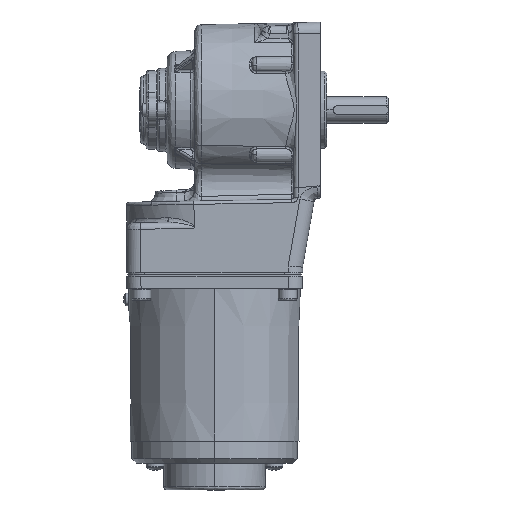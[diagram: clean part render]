
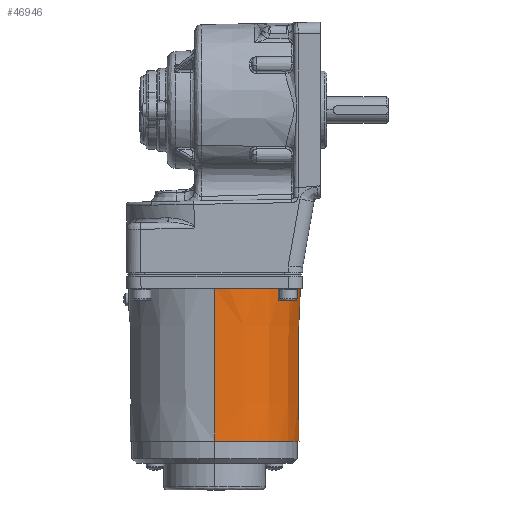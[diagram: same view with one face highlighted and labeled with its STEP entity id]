
A CAD part, front view. The second image highlights one B-rep face of the part: STEP entity #46946.
In plain terms, the highlighted conical face has half-angle 0.5 degrees and reference radius 39 mm.
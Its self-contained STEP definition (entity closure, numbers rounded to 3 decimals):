
#1522 = DIRECTION ( 'NONE',  ( 0., -1., -0.009 ) ) ;
#1579 = DIRECTION ( 'NONE',  ( 0., -1., 0.009 ) ) ;
#1963 = EDGE_CURVE ( 'NONE', #39040, #61683, #29865, .T. ) ;
#2939 = CARTESIAN_POINT ( 'NONE',  ( 0., 0., 39. ) ) ;
#3032 = CIRCLE ( 'NONE', #30012, 38.393 ) ;
#6499 = EDGE_LOOP ( 'NONE', ( #70968, #22060, #14648, #78526 ) ) ;
#10653 = CARTESIAN_POINT ( 'NONE',  ( 0., 0., -39. ) ) ;
#14648 = ORIENTED_EDGE ( 'NONE', *, *, #71739, .T. ) ;
#15449 = VERTEX_POINT ( 'NONE', #15988 ) ;
#15988 = CARTESIAN_POINT ( 'NONE',  ( 0., 0., 39. ) ) ;
#16073 = CARTESIAN_POINT ( 'NONE',  ( 0., 69.5, 0. ) ) ;
#17263 = AXIS2_PLACEMENT_3D ( 'NONE', #40560, #71375, #46857 ) ;
#18567 = FACE_OUTER_BOUND ( 'NONE', #6499, .T. ) ;
#22060 = ORIENTED_EDGE ( 'NONE', *, *, #60659, .T. ) ;
#22400 = DIRECTION ( 'NONE',  ( 0., 0., -1. ) ) ;
#24518 = CONICAL_SURFACE ( 'NONE', #17263, 39., 0.009 ) ;
#26874 = VECTOR ( 'NONE', #1522, 1000. ) ;
#27565 = CARTESIAN_POINT ( 'NONE',  ( 0., 0., 0. ) ) ;
#29865 = LINE ( 'NONE', #48862, #26874 ) ;
#30012 = AXIS2_PLACEMENT_3D ( 'NONE', #16073, #59838, #22400 ) ;
#33834 = DIRECTION ( 'NONE',  ( 0., 0., -1. ) ) ;
#35449 = CARTESIAN_POINT ( 'NONE',  ( 0., 69.5, 38.393 ) ) ;
#36298 = AXIS2_PLACEMENT_3D ( 'NONE', #27565, #71234, #33834 ) ;
#37866 = VECTOR ( 'NONE', #1579, 1000. ) ;
#38450 = CARTESIAN_POINT ( 'NONE',  ( 0., 69.5, -38.393 ) ) ;
#39040 = VERTEX_POINT ( 'NONE', #38450 ) ;
#39460 = LINE ( 'NONE', #2939, #37866 ) ;
#40560 = CARTESIAN_POINT ( 'NONE',  ( 0., 0., 0. ) ) ;
#46857 = DIRECTION ( 'NONE',  ( 0., 0., -1. ) ) ;
#46946 = ADVANCED_FACE ( 'NONE', ( #18567 ), #24518, .T. ) ;
#48862 = CARTESIAN_POINT ( 'NONE',  ( 0., 0., -39. ) ) ;
#59838 = DIRECTION ( 'NONE',  ( 0., -1., 0. ) ) ;
#60659 = EDGE_CURVE ( 'NONE', #76738, #15449, #39460, .T. ) ;
#61683 = VERTEX_POINT ( 'NONE', #10653 ) ;
#70968 = ORIENTED_EDGE ( 'NONE', *, *, #74388, .T. ) ;
#71234 = DIRECTION ( 'NONE',  ( 0., 1., 0. ) ) ;
#71375 = DIRECTION ( 'NONE',  ( 0., -1., 0. ) ) ;
#71739 = EDGE_CURVE ( 'NONE', #15449, #61683, #72852, .T. ) ;
#72852 = CIRCLE ( 'NONE', #36298, 39. ) ;
#74388 = EDGE_CURVE ( 'NONE', #39040, #76738, #3032, .T. ) ;
#76738 = VERTEX_POINT ( 'NONE', #35449 ) ;
#78526 = ORIENTED_EDGE ( 'NONE', *, *, #1963, .F. ) ;
